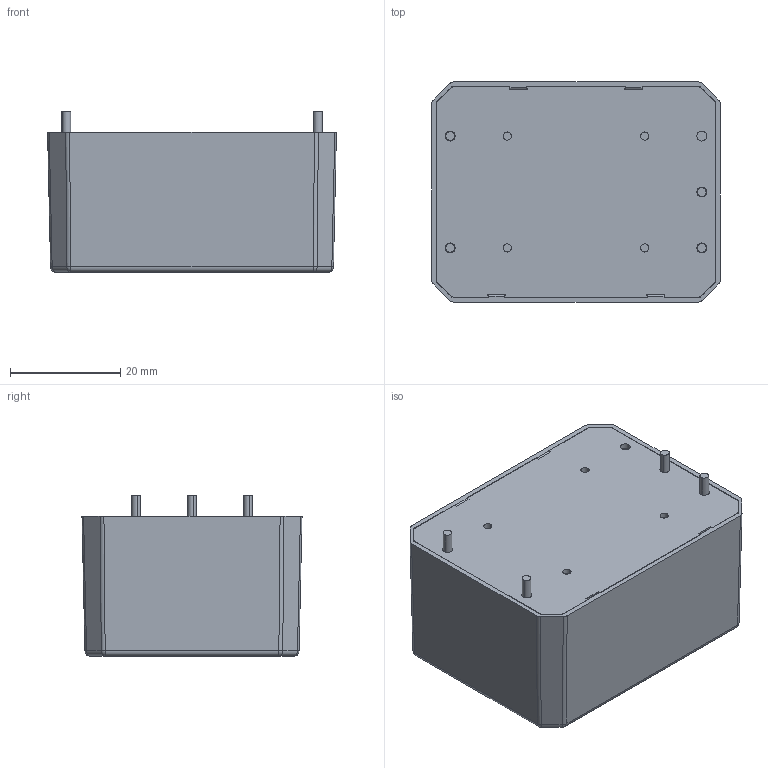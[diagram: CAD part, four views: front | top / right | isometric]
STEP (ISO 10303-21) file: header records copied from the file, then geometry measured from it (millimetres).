
FILE_DESCRIPTION (( 'STEP AP214' ), '1' );
FILE_NAME ('RACM65S-K_277_3D.STEP', '2024-10-16T02:42:23', ( '' ), ( '' ), 'SwSTEP 2.0', 'SolidWorks 2024', '' );
FILE_SCHEMA (( 'AUTOMOTIVE_DESIGN' ));
Length unit declared in the file: millimetre
Products named in the file (1): RACM65S-K_277_3D
Bounding box: 52.5 x 40 x 29.2 mm (x, y, z)
Volume: 11320.6 mm3; surface area: 20840.9 mm2
Topology: 7 solids, 7 shells, 563 faces, 1475 edges, 938 vertices
Faces by surface type: cylinder 292, plane 227, sphere 24, bspline 20
Entity records: 25058 total; most frequent: CARTESIAN_POINT 4575, DIRECTION 2940, ORIENTED_EDGE 2934, EDGE_CURVE 1467, AXIS2_PLACEMENT_3D 1039, VERTEX_POINT 938, LINE 862, VECTOR 862
